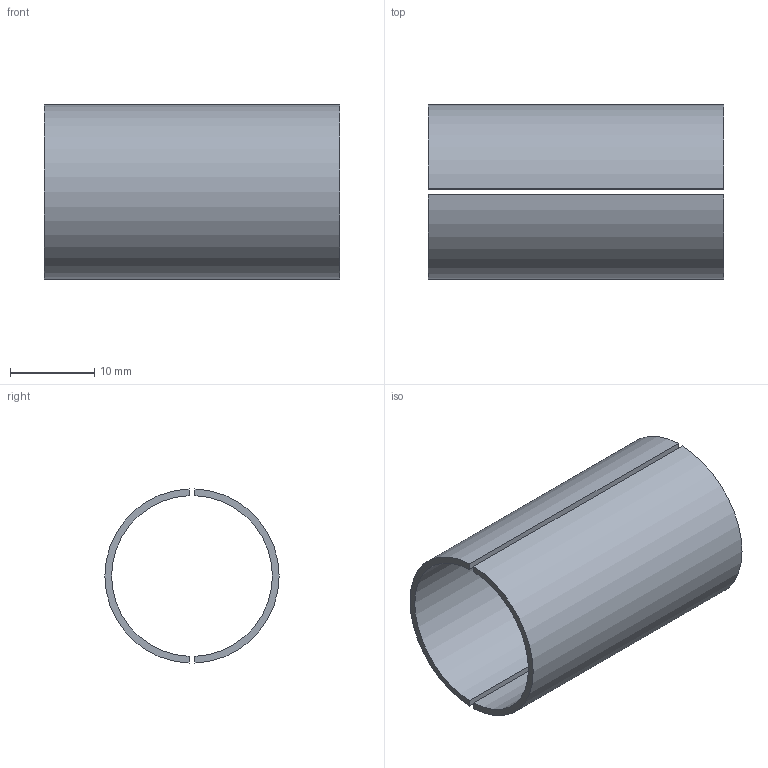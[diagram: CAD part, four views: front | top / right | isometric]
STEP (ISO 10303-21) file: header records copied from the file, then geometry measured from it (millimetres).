
FILE_DESCRIPTION(('Open CASCADE Model'),'2;1');
FILE_NAME('Open CASCADE Shape Model','2026-10-16T17:03:12',('Author'),( 'Open CASCADE'),'Open CASCADE STEP processor 7.9','Open CASCADE 7.9' ,'Unknown');
FILE_SCHEMA(('AUTOMOTIVE_DESIGN { 1 0 10303 214 1 1 1 1 }'));
Length unit declared in the file: millimetre
Products named in the file (3): Open CASCADE STEP translator 7.9 4; Open CASCADE STEP translator 7.9 4.1; Open CASCADE STEP translator 7.9 4.2
Assembly tree (2 placements, depth 2):
  Open CASCADE STEP translator 7.9 4
    Open CASCADE STEP translator 7.9 4.1
    Open CASCADE STEP translator 7.9 4.2
Bounding box: 35 x 20.65 x 20.64 mm (x, y, z)
Volume: 1706.9 mm3; surface area: 4476.8 mm2
Topology: 2 solids, 2 shells, 12 faces, 24 edges, 16 vertices
Faces by surface type: plane 8, cylinder 4
Entity records: 646 total; most frequent: CARTESIAN_POINT 147, DIRECTION 76, ORIENTED_EDGE 48, PCURVE 48, DEFINITIONAL_REPRESENTATION 48, B_SPLINE_CURVE_WITH_KNOTS 32, EDGE_CURVE 24, SURFACE_CURVE 24
